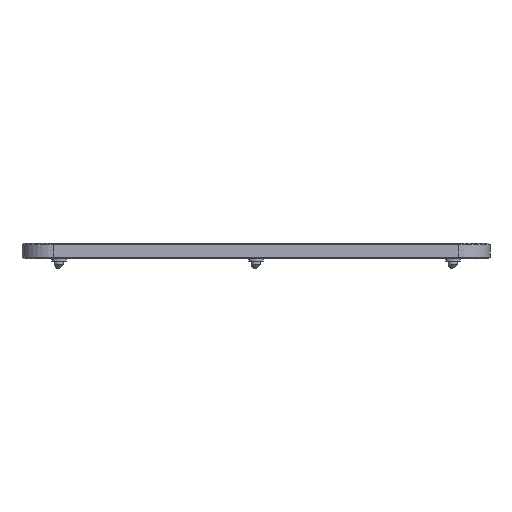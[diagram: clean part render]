
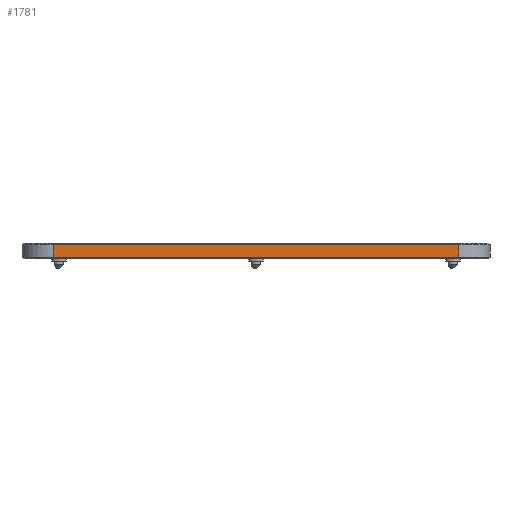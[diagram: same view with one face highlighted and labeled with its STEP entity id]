
A CAD part, front view. The second image highlights one B-rep face of the part: STEP entity #1781.
In plain terms, the highlighted planar face has unit normal (0, -1, 0).
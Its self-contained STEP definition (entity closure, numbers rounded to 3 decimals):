
#883=LINE('',#16468,#1032);
#884=LINE('',#16471,#1033);
#885=LINE('',#16473,#1034);
#886=LINE('',#16475,#1035);
#1032=VECTOR('',#9674,1.);
#1033=VECTOR('',#9675,1.);
#1034=VECTOR('',#9676,1.);
#1035=VECTOR('',#9677,1.);
#1467=FACE_OUTER_BOUND('',#3183,.T.);
#1781=ADVANCED_FACE('',(#1467),#2115,.T.);
#2115=PLANE('',#8633);
#3183=EDGE_LOOP('',(#5354,#5355,#5356,#5357));
#5354=ORIENTED_EDGE('',*,*,#7865,.T.);
#5355=ORIENTED_EDGE('',*,*,#7866,.T.);
#5356=ORIENTED_EDGE('',*,*,#7867,.T.);
#5357=ORIENTED_EDGE('',*,*,#7868,.T.);
#6756=VERTEX_POINT('',#16469);
#6757=VERTEX_POINT('',#16470);
#6758=VERTEX_POINT('',#16472);
#6759=VERTEX_POINT('',#16474);
#7865=EDGE_CURVE('',#6756,#6757,#883,.T.);
#7866=EDGE_CURVE('',#6757,#6758,#884,.T.);
#7867=EDGE_CURVE('',#6758,#6759,#885,.T.);
#7868=EDGE_CURVE('',#6759,#6756,#886,.T.);
#8633=AXIS2_PLACEMENT_3D('',#16476,#9678,#9679);
#9674=DIRECTION('',(0.,0.,1.));
#9675=DIRECTION('',(-1.,0.,0.));
#9676=DIRECTION('',(0.,0.,-1.));
#9677=DIRECTION('',(1.,0.,0.));
#9678=DIRECTION('',(0.,-1.,0.));
#9679=DIRECTION('',(1.,0.,0.));
#16468=CARTESIAN_POINT('',(130.,-150.,0.));
#16469=CARTESIAN_POINT('',(130.,-150.,-9.));
#16470=CARTESIAN_POINT('',(130.,-150.,-1.));
#16471=CARTESIAN_POINT('',(-130.,-150.,-1.));
#16472=CARTESIAN_POINT('',(-130.,-150.,-1.));
#16473=CARTESIAN_POINT('',(-130.,-150.,0.));
#16474=CARTESIAN_POINT('',(-130.,-150.,-9.));
#16475=CARTESIAN_POINT('',(150.,-150.,-9.));
#16476=CARTESIAN_POINT('',(150.,-150.,0.));
